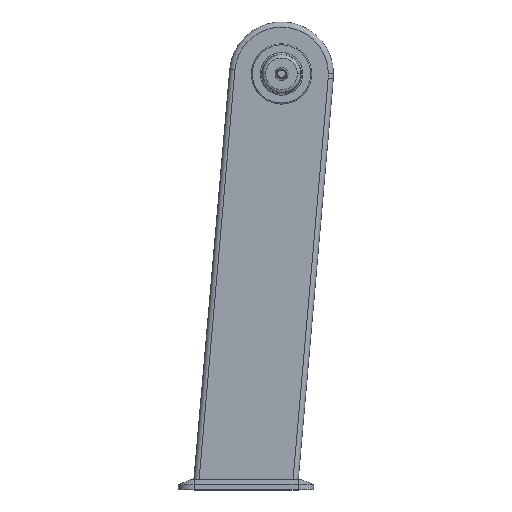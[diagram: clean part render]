
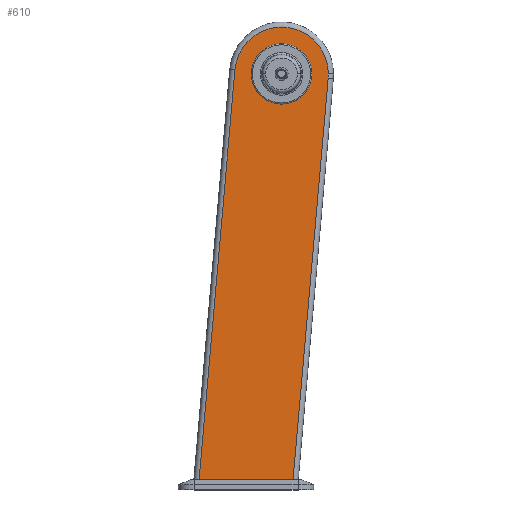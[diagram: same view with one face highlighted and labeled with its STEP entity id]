
A CAD part, top view. The second image highlights one B-rep face of the part: STEP entity #610.
In plain terms, the highlighted planar face has unit normal (0, 0, 1).
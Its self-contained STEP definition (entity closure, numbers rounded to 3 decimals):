
#3 = ORIENTED_EDGE ( 'NONE', *, *, #1910, .F. ) ;
#26 = CARTESIAN_POINT ( 'NONE',  ( 0., 0., 31.25 ) ) ;
#58 = AXIS2_PLACEMENT_3D ( 'NONE', #26, #1425, #227 ) ;
#108 = AXIS2_PLACEMENT_3D ( 'NONE', #320, #1732, #529 ) ;
#133 = PLANE ( 'NONE',  #2027 ) ;
#155 = VERTEX_POINT ( 'NONE', #2389 ) ;
#156 = CARTESIAN_POINT ( 'NONE',  ( -89.658, 7.844, 31.25 ) ) ;
#157 = FACE_BOUND ( 'NONE', #586, .T. ) ;
#227 = DIRECTION ( 'NONE',  ( 1., 0., 0. ) ) ;
#282 = ORIENTED_EDGE ( 'NONE', *, *, #826, .T. ) ;
#320 = CARTESIAN_POINT ( 'NONE',  ( 0., 0., 31.25 ) ) ;
#322 = DIRECTION ( 'NONE',  ( 1., 0., 0. ) ) ;
#350 = CIRCLE ( 'NONE', #58, 90. ) ;
#454 = CARTESIAN_POINT ( 'NONE',  ( -158.585, -780., 31.25 ) ) ;
#472 = CIRCLE ( 'NONE', #2379, 90. ) ;
#522 = CARTESIAN_POINT ( 'NONE',  ( 0., 0., 31.25 ) ) ;
#529 = DIRECTION ( 'NONE',  ( 1., 0., 0. ) ) ;
#586 = EDGE_LOOP ( 'NONE', ( #2255, #3 ) ) ;
#602 = CARTESIAN_POINT ( 'NONE',  ( 0., -780., 31.25 ) ) ;
#610 = ADVANCED_FACE ( 'NONE', ( #1172, #157 ), #133, .T. ) ;
#614 = DIRECTION ( 'NONE',  ( -0.087, -0.996, 0. ) ) ;
#718 = LINE ( 'NONE', #1613, #1651 ) ;
#733 = DIRECTION ( 'NONE',  ( 1., 0., 0. ) ) ;
#739 = CARTESIAN_POINT ( 'NONE',  ( 90., 0., 31.25 ) ) ;
#756 = ORIENTED_EDGE ( 'NONE', *, *, #2224, .T. ) ;
#783 = VECTOR ( 'NONE', #800, 1000. ) ;
#800 = DIRECTION ( 'NONE',  ( 0.087, 0.996, 0. ) ) ;
#826 = EDGE_CURVE ( 'NONE', #1137, #2330, #838, .T. ) ;
#838 = LINE ( 'NONE', #2191, #783 ) ;
#867 = CARTESIAN_POINT ( 'NONE',  ( 89.658, -7.844, 31.25 ) ) ;
#875 = EDGE_CURVE ( 'NONE', #2034, #1592, #718, .T. ) ;
#960 = LINE ( 'NONE', #602, #2413 ) ;
#961 = ORIENTED_EDGE ( 'NONE', *, *, #2210, .T. ) ;
#1010 = CARTESIAN_POINT ( 'NONE',  ( 0., 0., 31.25 ) ) ;
#1019 = DIRECTION ( 'NONE',  ( 1., 0., 0. ) ) ;
#1052 = CARTESIAN_POINT ( 'NONE',  ( -58., 0., 31.25 ) ) ;
#1137 = VERTEX_POINT ( 'NONE', #1704 ) ;
#1172 = FACE_OUTER_BOUND ( 'NONE', #1253, .T. ) ;
#1211 = DIRECTION ( 'NONE',  ( 1., 0., 0. ) ) ;
#1253 = EDGE_LOOP ( 'NONE', ( #2179, #961, #282, #756, #2208 ) ) ;
#1425 = DIRECTION ( 'NONE',  ( 0., 0., 1. ) ) ;
#1515 = VERTEX_POINT ( 'NONE', #1052 ) ;
#1536 = DIRECTION ( 'NONE',  ( 0., 0., 1. ) ) ;
#1579 = CIRCLE ( 'NONE', #2260, 58. ) ;
#1592 = VERTEX_POINT ( 'NONE', #454 ) ;
#1613 = CARTESIAN_POINT ( 'NONE',  ( -160.411, -800.872, 31.25 ) ) ;
#1651 = VECTOR ( 'NONE', #614, 1000. ) ;
#1704 = CARTESIAN_POINT ( 'NONE',  ( 22.103, -780., 31.25 ) ) ;
#1732 = DIRECTION ( 'NONE',  ( 0., 0., 1. ) ) ;
#1910 = EDGE_CURVE ( 'NONE', #1515, #155, #1579, .T. ) ;
#1923 = DIRECTION ( 'NONE',  ( 0., 0., 1. ) ) ;
#1925 = EDGE_CURVE ( 'NONE', #155, #1515, #2049, .T. ) ;
#1948 = VERTEX_POINT ( 'NONE', #739 ) ;
#2027 = AXIS2_PLACEMENT_3D ( 'NONE', #2323, #1536, #322 ) ;
#2034 = VERTEX_POINT ( 'NONE', #156 ) ;
#2049 = CIRCLE ( 'NONE', #108, 58. ) ;
#2160 = EDGE_CURVE ( 'NONE', #1948, #2034, #472, .T. ) ;
#2179 = ORIENTED_EDGE ( 'NONE', *, *, #875, .T. ) ;
#2191 = CARTESIAN_POINT ( 'NONE',  ( 89.658, -7.844, 31.25 ) ) ;
#2208 = ORIENTED_EDGE ( 'NONE', *, *, #2160, .T. ) ;
#2210 = EDGE_CURVE ( 'NONE', #1592, #1137, #960, .T. ) ;
#2224 = EDGE_CURVE ( 'NONE', #2330, #1948, #350, .T. ) ;
#2255 = ORIENTED_EDGE ( 'NONE', *, *, #1925, .F. ) ;
#2260 = AXIS2_PLACEMENT_3D ( 'NONE', #522, #1923, #733 ) ;
#2323 = CARTESIAN_POINT ( 'NONE',  ( 0., 0., 31.25 ) ) ;
#2330 = VERTEX_POINT ( 'NONE', #867 ) ;
#2379 = AXIS2_PLACEMENT_3D ( 'NONE', #1010, #2394, #1211 ) ;
#2389 = CARTESIAN_POINT ( 'NONE',  ( 58., 0., 31.25 ) ) ;
#2394 = DIRECTION ( 'NONE',  ( 0., 0., 1. ) ) ;
#2413 = VECTOR ( 'NONE', #1019, 1000. ) ;
